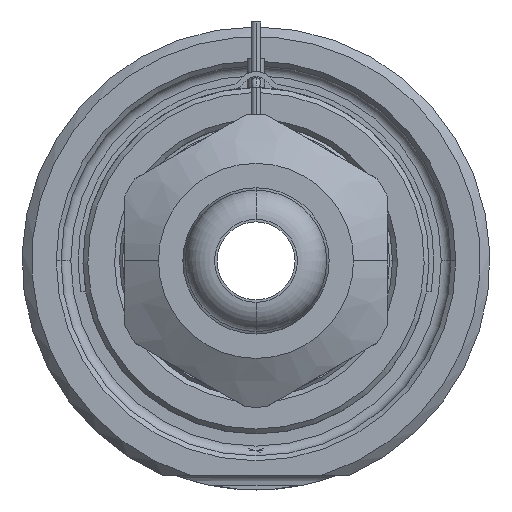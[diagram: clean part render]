
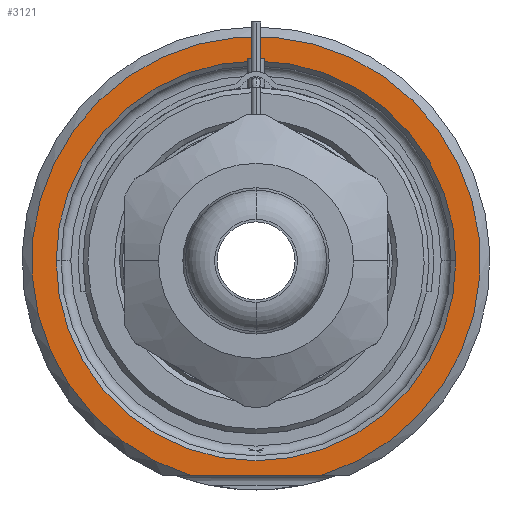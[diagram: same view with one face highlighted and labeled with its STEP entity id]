
A CAD part, front view. The second image highlights one B-rep face of the part: STEP entity #3121.
In plain terms, the highlighted planar face has unit normal (0, -1, 0).
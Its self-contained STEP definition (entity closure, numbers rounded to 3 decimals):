
#1=DIRECTION('',(1.,0.,0.));
#2=VECTOR('',#1,13.416);
#3=CARTESIAN_POINT('',(-6.708,0.,-22.));
#4=LINE('',#3,#2);
#5=CARTESIAN_POINT('',(0.,0.,0.));
#6=DIRECTION('',(0.,1.,0.));
#7=DIRECTION('',(-1.,0.,0.));
#8=AXIS2_PLACEMENT_3D('',#5,#6,#7);
#10=CARTESIAN_POINT('',(0.,0.,0.));
#11=DIRECTION('',(0.,1.,0.));
#12=DIRECTION('',(1.,0.,0.));
#13=AXIS2_PLACEMENT_3D('',#10,#11,#12);
#121=CARTESIAN_POINT('',(0.,0.,0.));
#122=DIRECTION('',(0.,-1.,0.));
#123=DIRECTION('',(0.292,0.,-0.957));
#124=AXIS2_PLACEMENT_3D('',#121,#122,#123);
#2594=CARTESIAN_POINT('',(-20.5,0.,0.));
#2595=CARTESIAN_POINT('',(20.5,0.,0.));
#2596=VERTEX_POINT('',#2594);
#2597=VERTEX_POINT('',#2595);
#2648=CARTESIAN_POINT('',(-6.708,0.,-22.));
#2649=CARTESIAN_POINT('',(6.708,0.,-22.));
#2650=VERTEX_POINT('',#2648);
#2651=VERTEX_POINT('',#2649);
#3104=CARTESIAN_POINT('',(0.,0.,0.));
#3105=DIRECTION('',(0.,-1.,0.));
#3106=DIRECTION('',(1.,0.,0.));
#3107=AXIS2_PLACEMENT_3D('',#3104,#3105,#3106);
#3108=PLANE('',#3107);
#3110=ORIENTED_EDGE('',*,*,#3109,.F.);
#3112=ORIENTED_EDGE('',*,*,#3111,.F.);
#3113=EDGE_LOOP('',(#3110,#3112));
#3114=FACE_OUTER_BOUND('',#3113,.F.);
#3116=ORIENTED_EDGE('',*,*,#3115,.F.);
#3118=ORIENTED_EDGE('',*,*,#3117,.F.);
#3119=EDGE_LOOP('',(#3116,#3118));
#3120=FACE_BOUND('',#3119,.F.);
#3121=ADVANCED_FACE('',(#3114,#3120),#3108,.T.);
#9=CIRCLE('',#8,20.5);
#14=CIRCLE('',#13,20.5);
#125=CIRCLE('',#124,23.);
#3109=EDGE_CURVE('',#2650,#2651,#4,.T.);
#3111=EDGE_CURVE('',#2651,#2650,#125,.T.);
#3115=EDGE_CURVE('',#2596,#2597,#9,.T.);
#3117=EDGE_CURVE('',#2597,#2596,#14,.T.);
